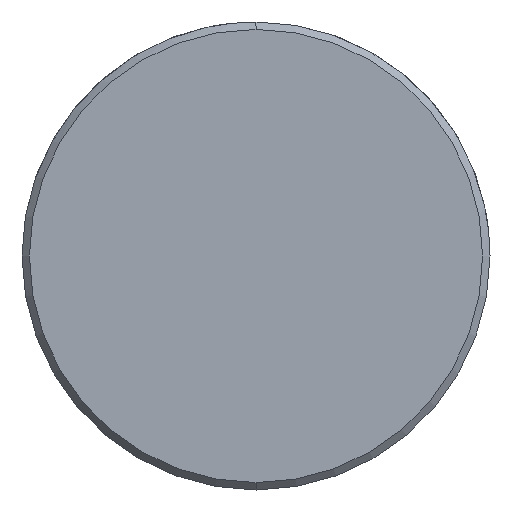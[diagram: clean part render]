
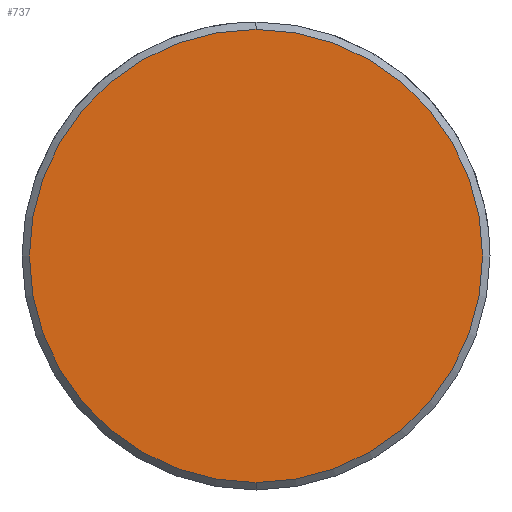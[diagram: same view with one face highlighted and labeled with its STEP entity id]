
A CAD part, left-side view. The second image highlights one B-rep face of the part: STEP entity #737.
In plain terms, the highlighted planar face has unit normal (-1, 0, 0).
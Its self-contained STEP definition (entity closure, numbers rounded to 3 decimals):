
#669=CARTESIAN_POINT('Vertex',(0.,0.,-9.2)) ;
#672=CARTESIAN_POINT('Axis2P3D Location',(0.,0.,0.)) ;
#676=CARTESIAN_POINT('Vertex',(0.,9.2,0.)) ;
#679=CARTESIAN_POINT('Axis2P3D Location',(0.,0.,0.)) ;
#683=CARTESIAN_POINT('Vertex',(0.,0.,9.2)) ;
#705=CARTESIAN_POINT('Axis2P3D Location',(0.,0.,0.)) ;
#709=CARTESIAN_POINT('Vertex',(0.,-9.2,0.)) ;
#712=CARTESIAN_POINT('Axis2P3D Location',(0.,0.,0.)) ;
#726=CARTESIAN_POINT('Axis2P3D Location',(0.,0.,0.)) ;
#673=DIRECTION('Axis2P3D Direction',(1.,0.,-0.)) ;
#680=DIRECTION('Axis2P3D Direction',(1.,0.,-0.)) ;
#706=DIRECTION('Axis2P3D Direction',(1.,0.,-0.)) ;
#713=DIRECTION('Axis2P3D Direction',(1.,0.,-0.)) ;
#727=DIRECTION('Axis2P3D Direction',(1.,0.,-0.)) ;
#728=DIRECTION('Axis2P3D XDirection',(-0.,0.,-1.)) ;
#674=AXIS2_PLACEMENT_3D('Circle Axis2P3D',#672,#673,$) ;
#681=AXIS2_PLACEMENT_3D('Circle Axis2P3D',#679,#680,$) ;
#707=AXIS2_PLACEMENT_3D('Circle Axis2P3D',#705,#706,$) ;
#714=AXIS2_PLACEMENT_3D('Circle Axis2P3D',#712,#713,$) ;
#729=AXIS2_PLACEMENT_3D('Plane Axis2P3D',#726,#727,#728) ;
#732=ORIENTED_EDGE('',*,*,#678,.F.) ;
#733=ORIENTED_EDGE('',*,*,#716,.F.) ;
#734=ORIENTED_EDGE('',*,*,#711,.F.) ;
#735=ORIENTED_EDGE('',*,*,#685,.F.) ;
#737=ADVANCED_FACE('549-16X100',(#736),#730,.F.) ;
#675=CIRCLE('generated circle',#674,9.2) ;
#682=CIRCLE('generated circle',#681,9.2) ;
#708=CIRCLE('generated circle',#707,9.2) ;
#715=CIRCLE('generated circle',#714,9.2) ;
#678=EDGE_CURVE('',#670,#677,#675,.T.) ;
#685=EDGE_CURVE('',#677,#684,#682,.T.) ;
#711=EDGE_CURVE('',#684,#710,#708,.T.) ;
#716=EDGE_CURVE('',#710,#670,#715,.T.) ;
#731=EDGE_LOOP('',(#732,#733,#734,#735)) ;
#736=FACE_OUTER_BOUND('',#731,.T.) ;
#730=PLANE('Plane',#729) ;
#670=VERTEX_POINT('',#669) ;
#677=VERTEX_POINT('',#676) ;
#684=VERTEX_POINT('',#683) ;
#710=VERTEX_POINT('',#709) ;
